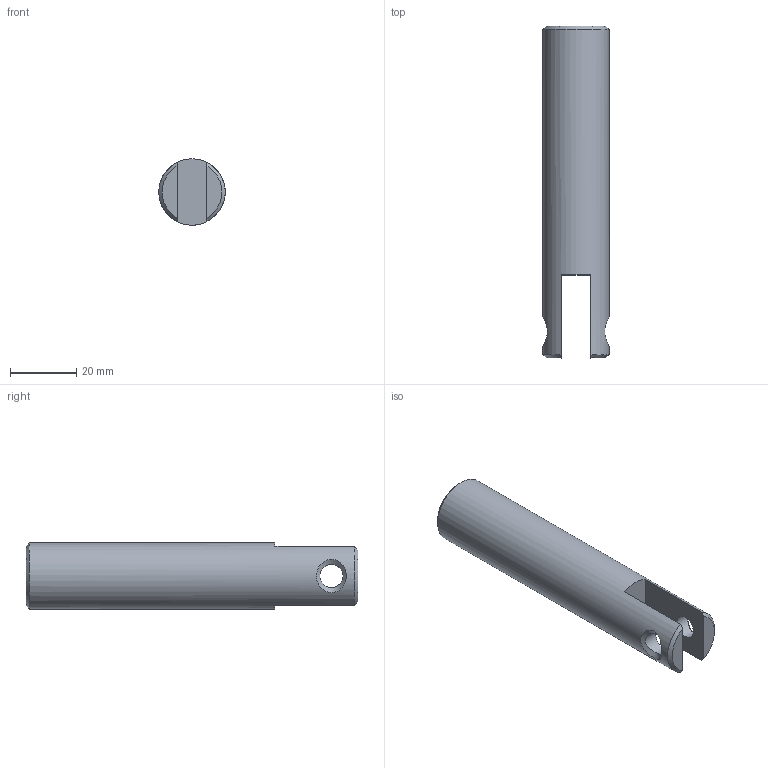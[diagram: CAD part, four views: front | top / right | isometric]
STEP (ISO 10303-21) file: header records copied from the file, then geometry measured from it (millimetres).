
FILE_DESCRIPTION(/* description */ (''),/* implementation_level */ '2;1');
FILE_NAME(/* name */ 'WHEELS-INSERT.23.stp',/* time_stamp */ '2018-05-25T14:26:56+02:00',/* author */ (''),/* organization */ (''),/* preprocessor_version */ 'ST-DEVELOPER v16.7',/* originating_system */ 'SIEMENS PLM Software NX 12.0',/* authorisation */ '');
FILE_SCHEMA (('AP203_CONFIGURATION_CONTROLLED_3D_DESIGN_OF_MECHANICAL_PARTS_AND_ASSEMBLIES_MIM_LF { 1 0 10303 403 2 1 2}'));
Length unit declared in the file: millimetre
Products named in the file (1): turc66A81BAD9zh7
Bounding box: 20 x 100 x 20 mm (x, y, z)
Volume: 25818.8 mm3; surface area: 7729.5 mm2
Topology: 1 solids, 1 shells, 17 faces, 42 edges, 27 vertices
Faces by surface type: plane 6, cone 5, cylinder 4, bspline 2
Full cylindrical faces by diameter (mm): 6.8 x1, 7 x2, 20 x1
Entity records: 820 total; most frequent: CARTESIAN_POINT 375, DIRECTION 66, ORIENTED_EDGE 58, EDGE_LOOP 30, EDGE_CURVE 29, AXIS2_PLACEMENT_3D 29, FACE_BOUND 26, VERTEX_POINT 24
